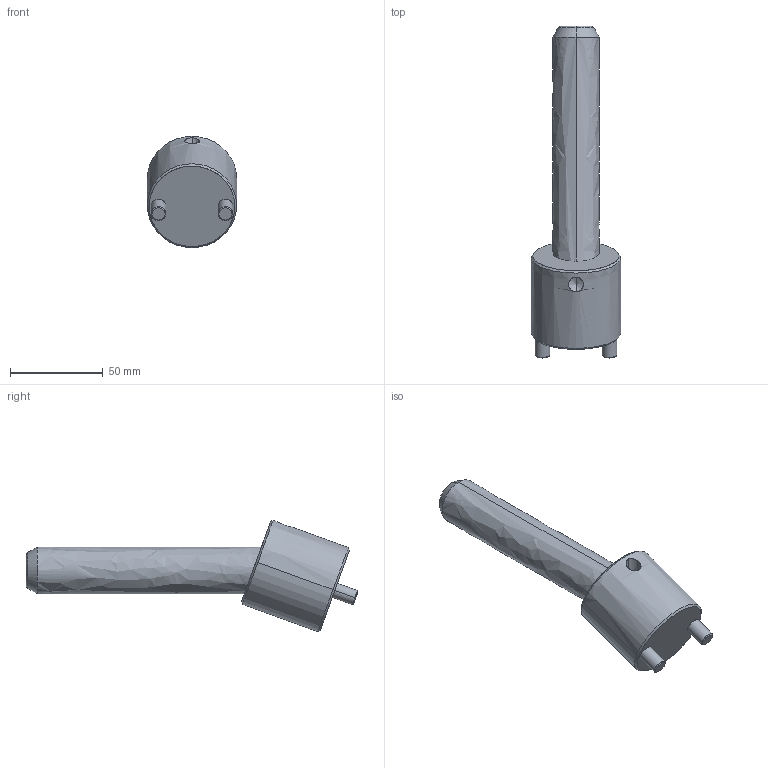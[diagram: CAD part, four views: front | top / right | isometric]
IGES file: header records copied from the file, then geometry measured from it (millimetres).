
Start section: START RECORD GO HERE.
Global section: file name: CI2025125.igs; native system: DASSAULT SYSTEMES CATIA V5 R20 - www.3ds.com; preprocessor: CATIA Version 5 Release 20 ; author: r.borello; organization: CFTORINO; date: 20190624.084343; units: millimetre
Bounding box: 48 x 178.47 x 59.81 mm (x, y, z)
Surface area: 27349 mm2 (no closed solid volume)
Topology: 0 solids, 0 shells, 39 faces, 162 edges, 160 vertices
Faces by surface type: revolution 32, plane 7
